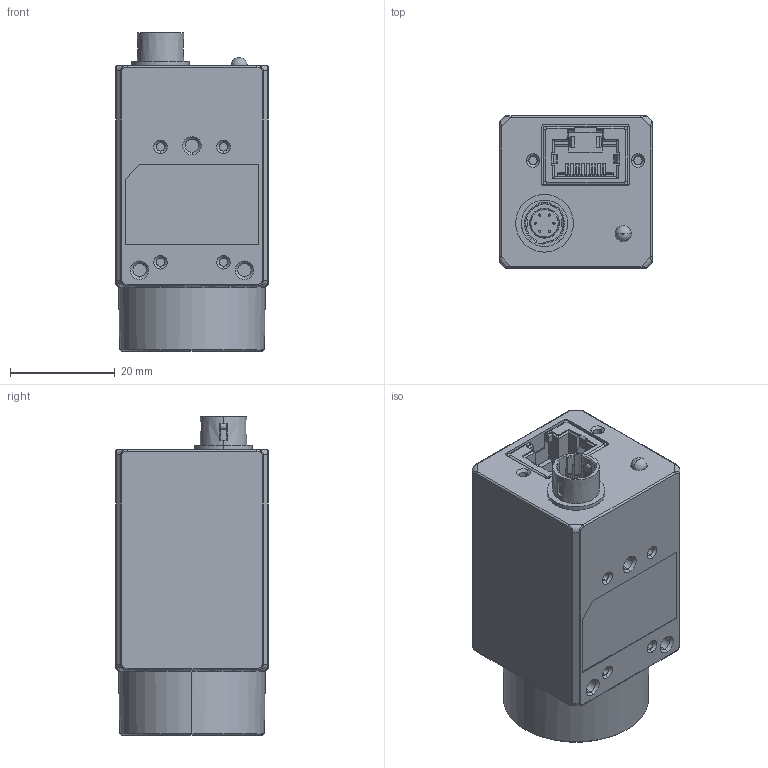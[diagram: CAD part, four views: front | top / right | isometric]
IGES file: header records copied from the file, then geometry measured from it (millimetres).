
Start section:  PTC IGES file: mv-600w-3d.igs
Global section: file name: mv-600w-3d.igs; native system: Creo Parametric by Parametric Technology Corporation; preprocessor: 2013410; author: wanggangqiang; organization: Unknown; date: 20160203.105054; units: millimetre
Bounding box: 29 x 29 x 60.81 mm (x, y, z)
Volume: 34128.4 mm3; surface area: 14603.7 mm2
Topology: 2 solids, 2 shells, 1225 faces, 3609 edges, 2356 vertices
Faces by surface type: bspline 864, revolution 357, extrusion 4
